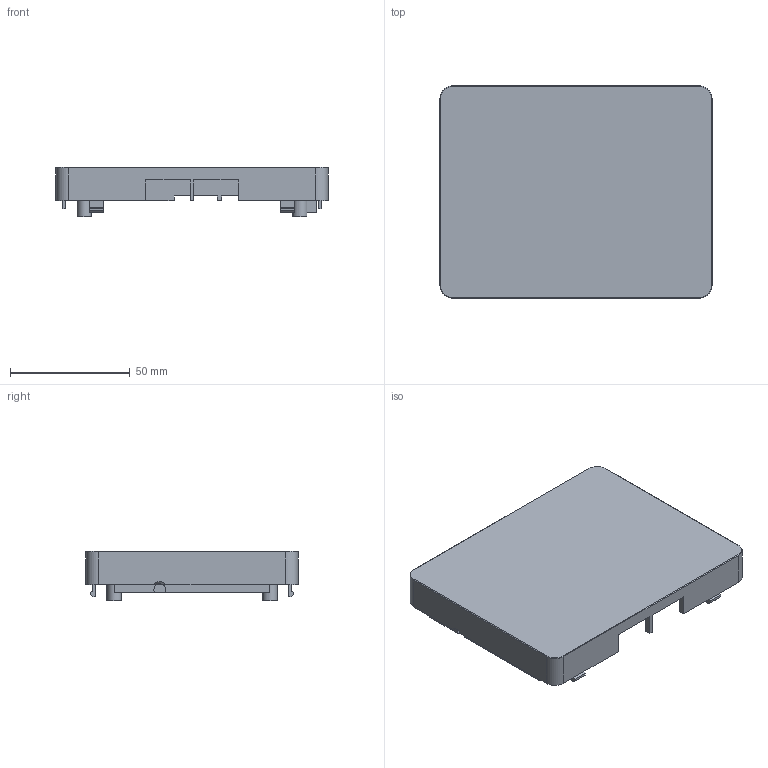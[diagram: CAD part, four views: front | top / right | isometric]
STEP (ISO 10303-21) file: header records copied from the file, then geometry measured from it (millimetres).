
FILE_DESCRIPTION(('Open CASCADE Model'),'2;1');
FILE_NAME('Open CASCADE Shape Model','2026-10-15T17:44:17',('Author'),( 'Open CASCADE'),'Open CASCADE STEP processor 7.9','Open CASCADE 7.9' ,'Unknown');
FILE_SCHEMA(('AUTOMOTIVE_DESIGN { 1 0 10303 214 1 1 1 1 }'));
Length unit declared in the file: millimetre
Products named in the file (1): Open CASCADE STEP translator 7.9 2
Bounding box: 113.6 x 88.6 x 20.7 mm (x, y, z)
Volume: 36808.9 mm3; surface area: 32989.6 mm2
Topology: 1 solids, 1 shells, 133 faces, 350 edges, 231 vertices
Faces by surface type: plane 111, cylinder 17, cone 5
Full cylindrical faces by diameter (mm): 3.8 x4, 6 x4
Entity records: 8456 total; most frequent: CARTESIAN_POINT 1623, DIRECTION 1182, LINE 779, VECTOR 779, ORIENTED_EDGE 700, PCURVE 700, DEFINITIONAL_REPRESENTATION 700, EDGE_CURVE 350
